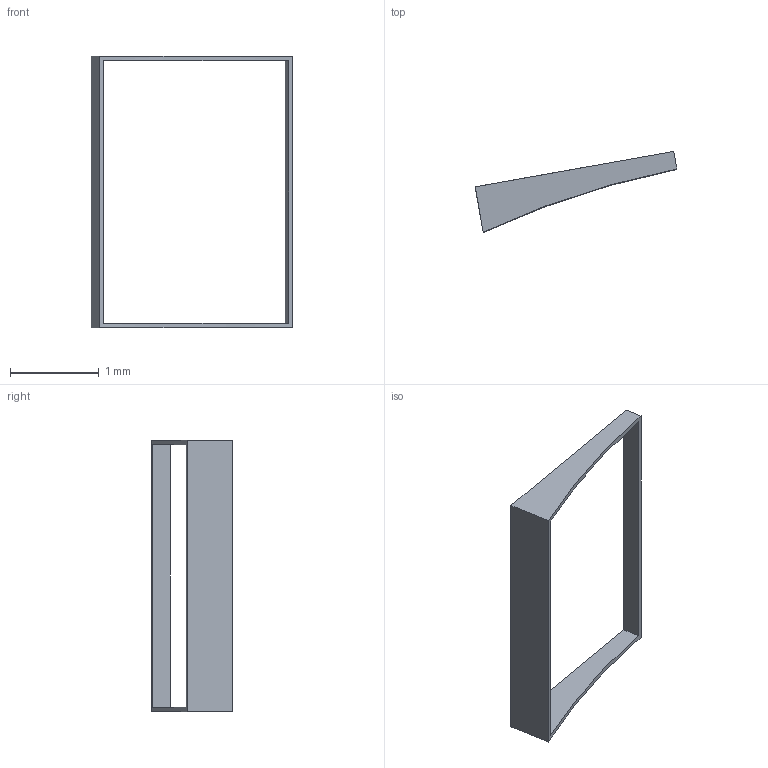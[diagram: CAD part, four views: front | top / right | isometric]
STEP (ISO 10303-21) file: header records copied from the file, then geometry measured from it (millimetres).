
FILE_DESCRIPTION(('FreeCAD Model'),'2;1');
FILE_NAME('Open CASCADE Shape Model','2026-10-23T21:15:57',('FreeCAD'),( 'FreeCAD'),'Open CASCADE STEP processor 7.8','FreeCAD','Unknown');
FILE_SCHEMA(('AUTOMOTIVE_DESIGN { 1 0 10303 214 1 1 1 1 }'));
Length unit declared in the file: millimetre
Products named in the file (1): Open CASCADE STEP translator 7.8 6
Bounding box: 2.27 x 0.91 x 3.05 mm (x, y, z)
Volume: 0.2 mm3; surface area: 8.1 mm2
Topology: 1 solids, 1 shells, 10 faces, 24 edges, 16 vertices
Faces by surface type: plane 9, cylinder 1
Entity records: 306 total; most frequent: CARTESIAN_POINT 51, DIRECTION 50, ORIENTED_EDGE 48, EDGE_CURVE 24, LINE 20, VECTOR 20, VERTEX_POINT 16, AXIS2_PLACEMENT_3D 15
